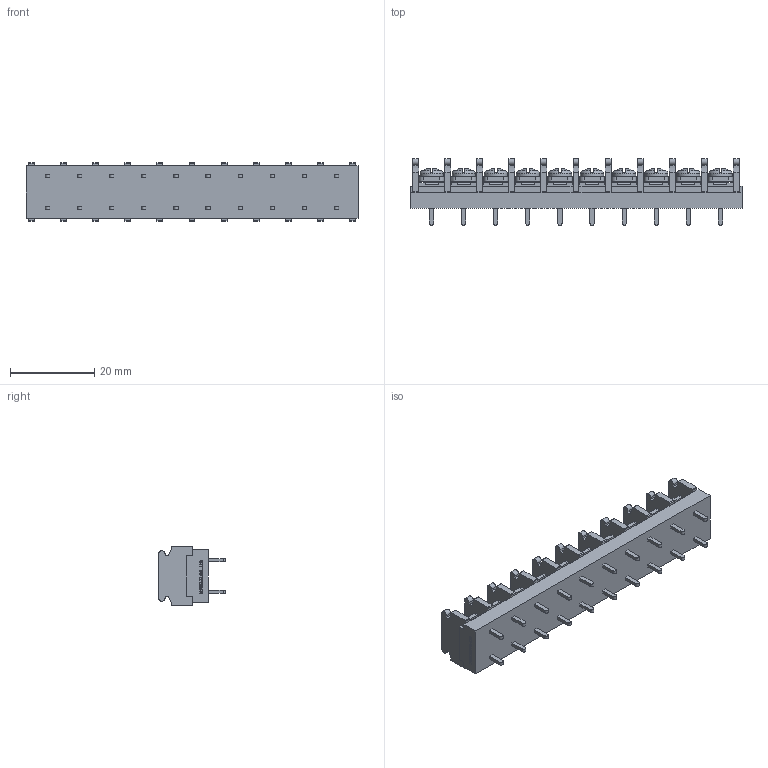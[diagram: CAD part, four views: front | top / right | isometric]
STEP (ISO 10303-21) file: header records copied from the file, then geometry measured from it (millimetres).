
FILE_DESCRIPTION(/* description */ ('Alibre Inc.'),/* implementation_level */ '2;1');
FILE_NAME(/* name */ 'export0',/* time_stamp */ '2015-10-23T20:19:53+09:00',/* author */ (''),/* organization */ (''),/* preprocessor_version */ 'ST-DEVELOPER v14',/* originating_system */ 'Alibre',/* authorisation */ '');
FILE_SCHEMA (('CONFIG_CONTROL_DESIGN'));
Length unit declared in the file: centimetre
Products named in the file (1): ID_1
Bounding box: 78.82 x 15.8 x 14 mm (x, y, z)
Volume: 7480.9 mm3; surface area: 7200.3 mm2
Topology: 1 solids, 1 shells, 1572 faces, 4296 edges, 2816 vertices
Faces by surface type: plane 1222, cylinder 166, bspline 104, cone 40, torus 20, sphere 20
Full cylindrical faces by diameter (mm): 3 x10, 5.5 x10
Entity records: 47093 total; most frequent: CARTESIAN_POINT 9913, ORIENTED_EDGE 8472, DIRECTION 5998, EDGE_CURVE 4236, VECTOR 3096, LINE 3096, VERTEX_POINT 2796, AXIS2_PLACEMENT_3D 2013
